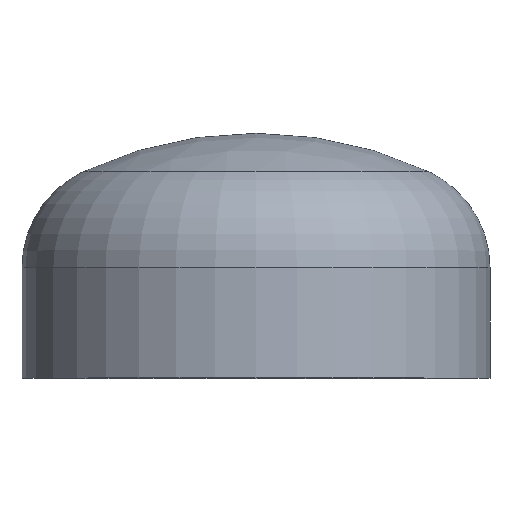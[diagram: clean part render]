
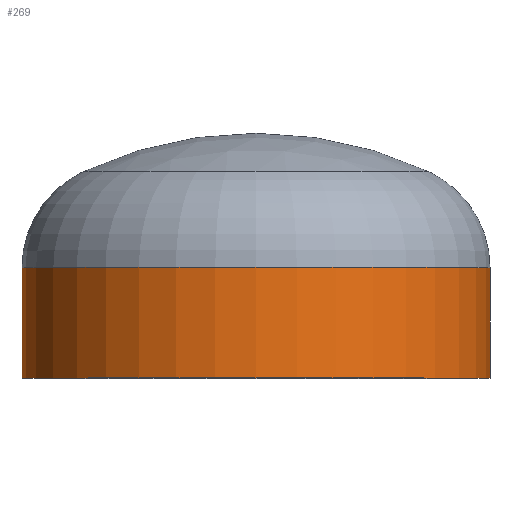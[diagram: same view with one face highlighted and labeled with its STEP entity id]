
A CAD part, top view. The second image highlights one B-rep face of the part: STEP entity #269.
In plain terms, the highlighted cylindrical face has radius 254 mm (diameter 508 mm), a partial arc.
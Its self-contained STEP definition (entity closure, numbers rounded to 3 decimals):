
#12 = ORIENTED_EDGE ( 'NONE', *, *, #399, .F. ) ;
#13 = VERTEX_POINT ( 'NONE', #245 ) ;
#27 = AXIS2_PLACEMENT_3D ( 'NONE', #283, #195, #42 ) ;
#29 = VERTEX_POINT ( 'NONE', #282 ) ;
#42 = DIRECTION ( 'NONE',  ( 1., 0., 0. ) ) ;
#50 = AXIS2_PLACEMENT_3D ( 'NONE', #253, #255, #220 ) ;
#54 = VERTEX_POINT ( 'NONE', #241 ) ;
#66 = ORIENTED_EDGE ( 'NONE', *, *, #383, .T. ) ;
#93 = VERTEX_POINT ( 'NONE', #242 ) ;
#99 = EDGE_CURVE ( 'NONE', #93, #54, #121, .T. ) ;
#121 = LINE ( 'NONE', #237, #381 ) ;
#125 = ORIENTED_EDGE ( 'NONE', *, *, #344, .T. ) ;
#126 = ORIENTED_EDGE ( 'NONE', *, *, #99, .F. ) ;
#136 = EDGE_LOOP ( 'NONE', ( #125, #66, #12, #126 ) ) ;
#149 = CARTESIAN_POINT ( 'NONE',  ( 0., 0., 0. ) ) ;
#150 = LINE ( 'NONE', #159, #323 ) ;
#159 = CARTESIAN_POINT ( 'NONE',  ( -254., 0., 0. ) ) ;
#176 = DIRECTION ( 'NONE',  ( 1., 0., 0. ) ) ;
#195 = DIRECTION ( 'NONE',  ( 0., -1., 0. ) ) ;
#220 = DIRECTION ( 'NONE',  ( 1., 0., 0. ) ) ;
#237 = CARTESIAN_POINT ( 'NONE',  ( 254., 0., 0. ) ) ;
#241 = CARTESIAN_POINT ( 'NONE',  ( 254., 0., 0. ) ) ;
#242 = CARTESIAN_POINT ( 'NONE',  ( 254., 120., 0. ) ) ;
#245 = CARTESIAN_POINT ( 'NONE',  ( -254., 0., 0. ) ) ;
#253 = CARTESIAN_POINT ( 'NONE',  ( 0., 0., 0. ) ) ;
#255 = DIRECTION ( 'NONE',  ( 0., -1., 0. ) ) ;
#269 = ADVANCED_FACE ( 'NONE', ( #295 ), #285, .T. ) ;
#274 = CIRCLE ( 'NONE', #27, 254. ) ;
#282 = CARTESIAN_POINT ( 'NONE',  ( -254., 120., 0. ) ) ;
#283 = CARTESIAN_POINT ( 'NONE',  ( 0., 120., 0. ) ) ;
#285 = CYLINDRICAL_SURFACE ( 'NONE', #50, 254. ) ;
#293 = DIRECTION ( 'NONE',  ( 0., -1., 0. ) ) ;
#295 = FACE_OUTER_BOUND ( 'NONE', #136, .T. ) ;
#311 = DIRECTION ( 'NONE',  ( 0., -1., 0. ) ) ;
#323 = VECTOR ( 'NONE', #293, 1000. ) ;
#334 = DIRECTION ( 'NONE',  ( 0., -1., 0. ) ) ;
#344 = EDGE_CURVE ( 'NONE', #93, #29, #274, .T. ) ;
#376 = CIRCLE ( 'NONE', #394, 254. ) ;
#381 = VECTOR ( 'NONE', #334, 1000. ) ;
#383 = EDGE_CURVE ( 'NONE', #29, #13, #150, .T. ) ;
#394 = AXIS2_PLACEMENT_3D ( 'NONE', #149, #311, #176 ) ;
#399 = EDGE_CURVE ( 'NONE', #54, #13, #376, .T. ) ;
